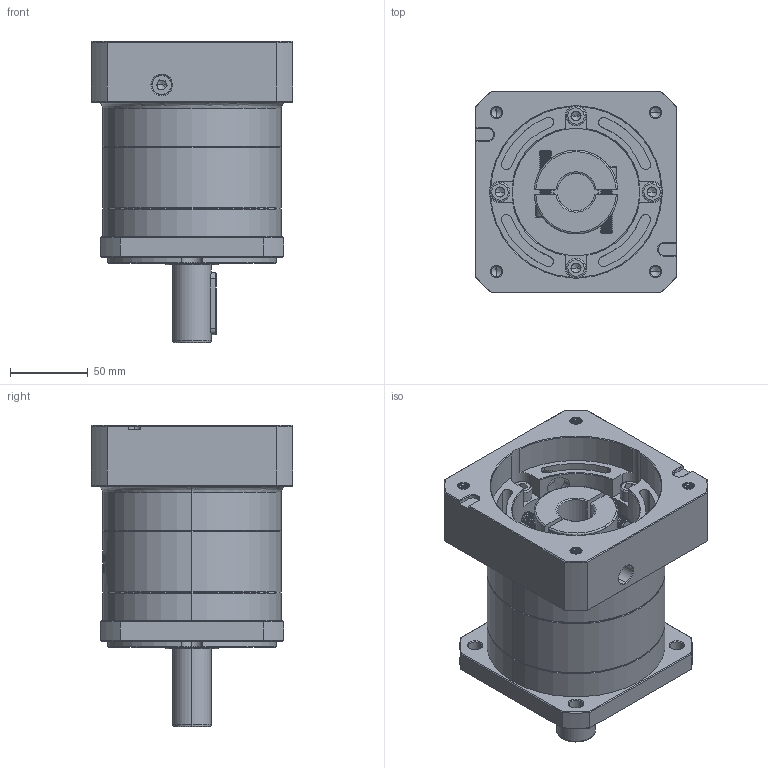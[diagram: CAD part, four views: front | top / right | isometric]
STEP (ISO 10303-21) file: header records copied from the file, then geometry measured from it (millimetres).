
FILE_DESCRIPTION (( 'STEP AP214' ), '1' );
FILE_NAME ('ZF120A-D25-L1-P2-24-110-145-M8.step', '2023-08-27T04:39:10', ( '' ), ( '' ), 'SwSTEP 2.0', 'SolidWorks 2016', '' );
FILE_SCHEMA (( 'AUTOMOTIVE_DESIGN' ));
Length unit declared in the file: millimetre
Products named in the file (1): ZF120A-D25-L1-P2-24-110-145-M8
Bounding box: 130 x 130 x 194 mm (x, y, z)
Volume: 1453807.2 mm3; surface area: 181975.3 mm2
Topology: 6 solids, 6 shells, 2278 faces, 6075 edges, 3896 vertices
Faces by surface type: plane 1060, cylinder 449, bspline 421, cone 328, torus 20
Entity records: 126263 total; most frequent: CARTESIAN_POINT 49913, ORIENTED_EDGE 12090, DIRECTION 8807, EDGE_CURVE 6045, VERTEX_POINT 3896, LINE 3173, VECTOR 3173, AXIS2_PLACEMENT_3D 2817
